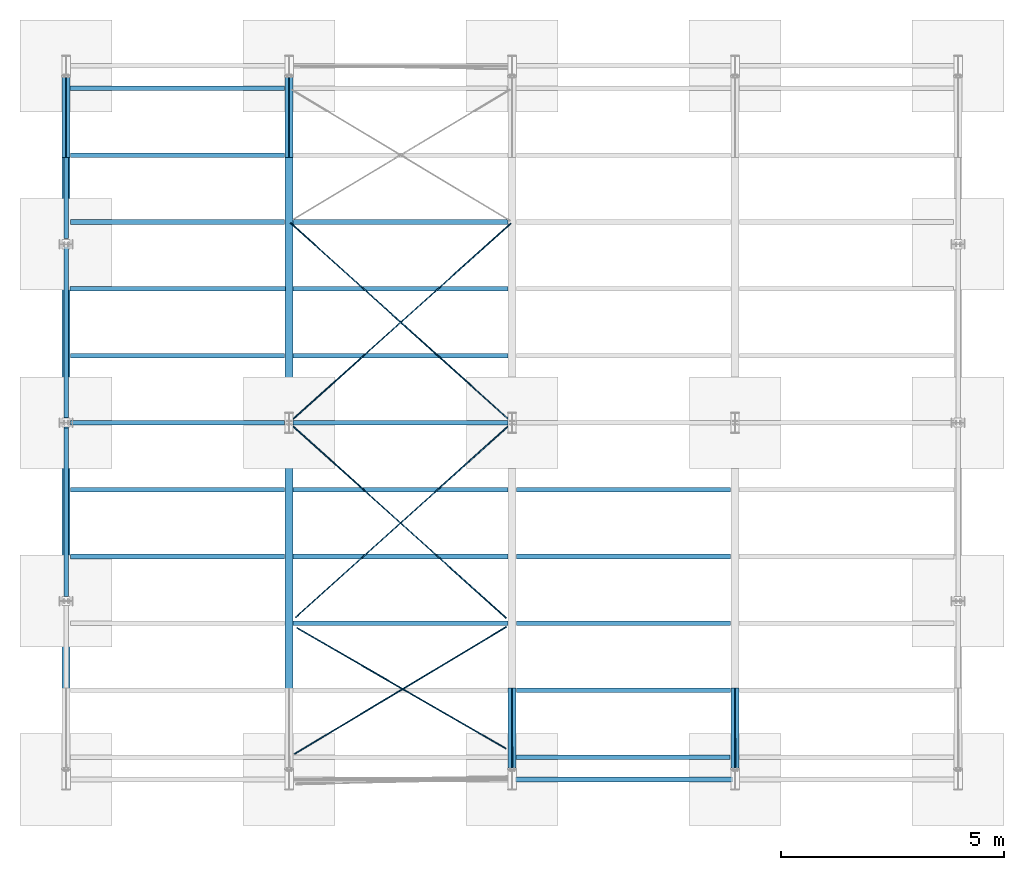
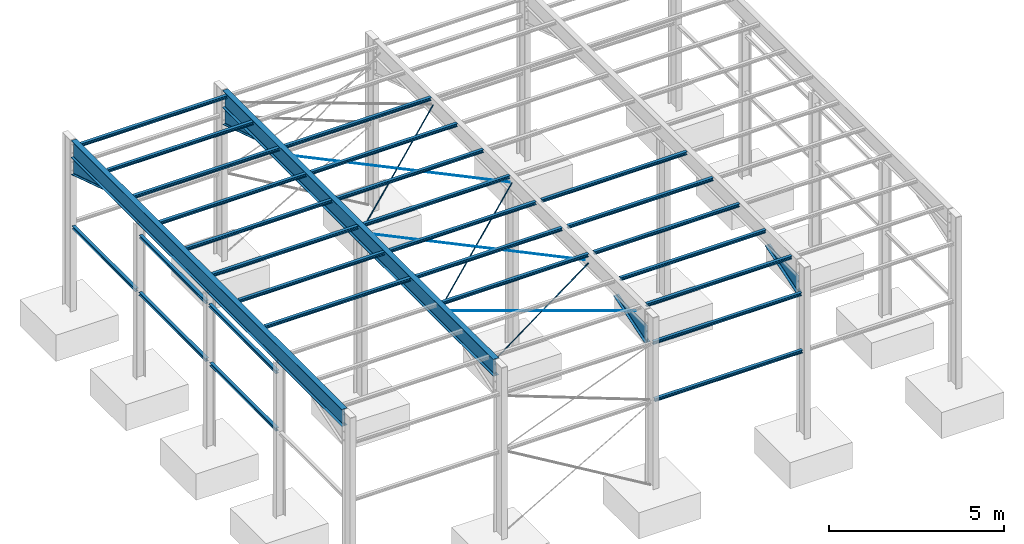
# Not in any storey, part 3 of 51: 35 beams, 4 members, 20 openings.
"""IFC4 model written with IfcOpenShell, lengths in feet."""

from ifc_helpers import new_model, entity, si_unit, converted_unit, direction, frame, frame_2d, origin, origin_2d, place, context, project, spatial, polyline, circle, i_section, outline, extrude, clip, halfspace, material, type_object, element, save


model = new_model("IFC4")

# Units and contexts
model_context = context("Model", 3, precision=0.0001, world=origin(), true_north=direction((6.123233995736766e-17, 1.0)))
ifc_project = project(units=[converted_unit("LENGTHUNIT", "FOOT", entity("IfcLengthMeasure", 0.3048), si_unit("LENGTHUNIT", "METRE"), dimensions=[1, 0, 0, 0, 0, 0, 0]), converted_unit("AREAUNIT", "SQUARE INCH", entity("IfcAreaMeasure", 0.0006451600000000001), si_unit("AREAUNIT", "SQUARE_METRE"), dimensions=[2, 0, 0, 0, 0, 0, 0]), converted_unit("PLANEANGLEUNIT", "DEGREE", entity("IfcPlaneAngleMeasure", 0.017453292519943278), si_unit("PLANEANGLEUNIT", "RADIAN"), dimensions=[0, 0, 0, 0, 0, 0, 0]), si_unit("VOLUMEUNIT", "CUBIC_METRE")], contexts=[model_context])

# Site
site_placement = place(None, origin())
site = spatial("IfcSite", under=ifc_project, at=site_placement, Name="Default", CompositionType="ELEMENT")

# Beam, openings
ifc_material_1 = material(Name="Steel ASTM A992", Category="Metal")
beam_type_1 = type_object("IfcBeamType", Name="W Shapes:W24X55", PredefinedType="BEAM")
beam_1_placement = place(site_placement, frame((27.657936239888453, 60.94091803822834, 18.701706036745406), z_axis=(0.0, 1.0, 0.0), x_axis=(-1.0, 0.0, 0.0)))
beam_1 = element("IfcBeam", 1, at=beam_1_placement, inside=site, type_object=beam_type_1, material=ifc_material_1, Name="W Shapes:W24X55", ObjectType="W24X55", context=model_context, shape_type="Clipping", body=[
    clip(clip(extrude(i_section(OverallWidth=0.5841666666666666, OverallDepth=1.9666666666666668, WebThickness=0.032916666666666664, FlangeThickness=0.042083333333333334, FilletRadius=0.042083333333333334, at=origin_2d()), origin(), (0.0, 0.0, -1.0), 57.81825835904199), halfspace(frame((27.657936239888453, -18.701706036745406, -3.824749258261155), z_axis=(0.0, 0.0, -1.0), x_axis=(-1.0, 0.0, 0.0)), True)), halfspace(frame((27.657936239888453, -18.701706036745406, -54.65361408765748), z_axis=(0.0, 0.0, 1.0), x_axis=(1.0, 0.0, 0.0)), True)),
])
opening_1_placement = place(beam_1_placement, frame((0.0, -0.9849737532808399, -29.23918167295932), z_axis=(0.0, 1.0, 0.0), x_axis=(0.0, 0.0, -1.0)))
element("IfcOpeningElement", 2, at=opening_1_placement, cuts=beam_1, ObjectType="Opening", context=model_context, shape_type="SweptSolid", body=[
    extrude(circle(Radius=0.03385744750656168, at=frame_2d((0.125, 0.14583333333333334), x_axis=(1.0, 0.0))), origin(), (0.0, 0.0, 1.0), 0.045364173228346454),
])
opening_2_placement = place(beam_1_placement, frame((0.0, -0.9849737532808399, -29.23918167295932), z_axis=(0.0, 1.0, 0.0), x_axis=(0.0, 0.0, -1.0)))
element("IfcOpeningElement", 3, at=opening_2_placement, cuts=beam_1, ObjectType="Opening", context=model_context, shape_type="SweptSolid", body=[
    extrude(circle(Radius=0.03385744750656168, at=frame_2d((-0.125, 0.14583333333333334), x_axis=(1.0, 0.0))), origin(), (0.0, 0.0, 1.0), 0.045364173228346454),
])
opening_3_placement = place(beam_1_placement, frame((0.0, -0.9849737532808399, -29.23918167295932), z_axis=(0.0, 1.0, 0.0), x_axis=(0.0, 0.0, -1.0)))
element("IfcOpeningElement", 4, at=opening_3_placement, cuts=beam_1, ObjectType="Opening", context=model_context, shape_type="SweptSolid", body=[
    extrude(circle(Radius=0.03385744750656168, at=frame_2d((0.125, -0.14583333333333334), x_axis=(1.0, 0.0))), origin(), (0.0, 0.0, 1.0), 0.045364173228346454),
])
opening_4_placement = place(beam_1_placement, frame((0.0, -0.9849737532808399, -29.23918167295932), z_axis=(0.0, 1.0, 0.0), x_axis=(0.0, 0.0, -1.0)))
element("IfcOpeningElement", 5, at=opening_4_placement, cuts=beam_1, ObjectType="Opening", context=model_context, shape_type="SweptSolid", body=[
    extrude(circle(Radius=0.03385744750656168, at=frame_2d((-0.125, -0.14583333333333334), x_axis=(1.0, 0.0))), origin(), (0.0, 0.0, 1.0), 0.045364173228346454),
])

beam_2_placement = place(site_placement, frame((11.253736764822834, 60.17664638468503, 18.701706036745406), z_axis=(0.0, 1.0, 0.0), x_axis=(-1.0, 0.0, 0.0)))
beam_2 = element("IfcBeam", 6, at=beam_2_placement, inside=site, type_object=beam_type_1, material=ifc_material_1, Name="W Shapes:W24X55", ObjectType="W24X55", context=model_context, shape_type="Clipping", body=[
    clip(clip(extrude(i_section(OverallWidth=0.5841666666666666, OverallDepth=1.9666666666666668, WebThickness=0.032916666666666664, FlangeThickness=0.042083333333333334, FilletRadius=0.042083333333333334, at=origin_2d()), origin(), (0.0, 0.0, -1.0), 57.71409169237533), halfspace(frame((11.253736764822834, -18.701706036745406, -53.88934243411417), z_axis=(0.0, 0.0, 1.0), x_axis=(1.0, 0.0, 0.0)), True)), halfspace(frame((11.253736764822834, -18.701706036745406, -3.0604776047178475), z_axis=(0.0, 0.0, -1.0), x_axis=(-1.0, 0.0, 0.0)), True)),
])
opening_5_placement = place(beam_2_placement, frame((0.0, -0.9849737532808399, -15.351550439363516), z_axis=(0.0, 1.0, 0.0), x_axis=(0.0, 0.0, 1.0)))
element("IfcOpeningElement", 7, at=opening_5_placement, cuts=beam_2, ObjectType="Opening", context=model_context, shape_type="SweptSolid", body=[
    extrude(circle(Radius=0.03385744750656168, at=frame_2d((0.125, 0.14583333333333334), x_axis=(1.0, 0.0))), origin(), (0.0, 0.0, 1.0), 0.045364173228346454),
])
opening_6_placement = place(beam_2_placement, frame((0.0, -0.9849737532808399, -15.351550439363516), z_axis=(0.0, 1.0, 0.0), x_axis=(0.0, 0.0, 1.0)))
element("IfcOpeningElement", 8, at=opening_6_placement, cuts=beam_2, ObjectType="Opening", context=model_context, shape_type="SweptSolid", body=[
    extrude(circle(Radius=0.03385744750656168, at=frame_2d((-0.125, 0.14583333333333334), x_axis=(1.0, 0.0))), origin(), (0.0, 0.0, 1.0), 0.045364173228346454),
])
opening_7_placement = place(beam_2_placement, frame((0.0, -0.9849737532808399, -15.351550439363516), z_axis=(0.0, 1.0, 0.0), x_axis=(0.0, 0.0, 1.0)))
element("IfcOpeningElement", 9, at=opening_7_placement, cuts=beam_2, ObjectType="Opening", context=model_context, shape_type="SweptSolid", body=[
    extrude(circle(Radius=0.03385744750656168, at=frame_2d((0.125, -0.14583333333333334), x_axis=(1.0, 0.0))), origin(), (0.0, 0.0, 1.0), 0.045364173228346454),
])
opening_8_placement = place(beam_2_placement, frame((0.0, -0.9849737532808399, -15.351550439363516), z_axis=(0.0, 1.0, 0.0), x_axis=(0.0, 0.0, 1.0)))
element("IfcOpeningElement", 10, at=opening_8_placement, cuts=beam_2, ObjectType="Opening", context=model_context, shape_type="SweptSolid", body=[
    extrude(circle(Radius=0.03385744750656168, at=frame_2d((-0.125, -0.14583333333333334), x_axis=(1.0, 0.0))), origin(), (0.0, 0.0, 1.0), 0.045364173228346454),
])
opening_9_placement = place(beam_2_placement, frame((0.0, -0.9849737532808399, -28.474910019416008), z_axis=(0.0, 1.0, 0.0), x_axis=(0.0, 0.0, 1.0)))
element("IfcOpeningElement", 11, at=opening_9_placement, cuts=beam_2, ObjectType="Opening", context=model_context, shape_type="SweptSolid", body=[
    extrude(circle(Radius=0.03385744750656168, at=frame_2d((0.125, 0.14583333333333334), x_axis=(1.0, 0.0))), origin(), (0.0, 0.0, 1.0), 0.045364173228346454),
])
opening_10_placement = place(beam_2_placement, frame((0.0, -0.9849737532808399, -28.474910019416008), z_axis=(0.0, 1.0, 0.0), x_axis=(0.0, 0.0, 1.0)))
element("IfcOpeningElement", 12, at=opening_10_placement, cuts=beam_2, ObjectType="Opening", context=model_context, shape_type="SweptSolid", body=[
    extrude(circle(Radius=0.03385744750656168, at=frame_2d((-0.125, 0.14583333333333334), x_axis=(1.0, 0.0))), origin(), (0.0, 0.0, 1.0), 0.045364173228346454),
])
opening_11_placement = place(beam_2_placement, frame((0.0, -0.9849737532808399, -28.474910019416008), z_axis=(0.0, 1.0, 0.0), x_axis=(0.0, 0.0, 1.0)))
element("IfcOpeningElement", 13, at=opening_11_placement, cuts=beam_2, ObjectType="Opening", context=model_context, shape_type="SweptSolid", body=[
    extrude(circle(Radius=0.03385744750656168, at=frame_2d((0.125, -0.14583333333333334), x_axis=(1.0, 0.0))), origin(), (0.0, 0.0, 1.0), 0.045364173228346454),
])
opening_12_placement = place(beam_2_placement, frame((0.0, -0.9849737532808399, -28.474910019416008), z_axis=(0.0, 1.0, 0.0), x_axis=(0.0, 0.0, 1.0)))
element("IfcOpeningElement", 14, at=opening_12_placement, cuts=beam_2, ObjectType="Opening", context=model_context, shape_type="SweptSolid", body=[
    extrude(circle(Radius=0.03385744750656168, at=frame_2d((-0.125, -0.14583333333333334), x_axis=(1.0, 0.0))), origin(), (0.0, 0.0, 1.0), 0.045364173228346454),
])
opening_13_placement = place(beam_2_placement, frame((0.0, -0.9849737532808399, -41.5982695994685), z_axis=(0.0, 1.0, 0.0), x_axis=(0.0, 0.0, -1.0)))
element("IfcOpeningElement", 15, at=opening_13_placement, cuts=beam_2, ObjectType="Opening", context=model_context, shape_type="SweptSolid", body=[
    extrude(circle(Radius=0.03385744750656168, at=frame_2d((0.125, 0.14583333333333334), x_axis=(1.0, 0.0))), origin(), (0.0, 0.0, 1.0), 0.045364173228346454),
])
opening_14_placement = place(beam_2_placement, frame((0.0, -0.9849737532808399, -41.5982695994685), z_axis=(0.0, 1.0, 0.0), x_axis=(0.0, 0.0, -1.0)))
element("IfcOpeningElement", 16, at=opening_14_placement, cuts=beam_2, ObjectType="Opening", context=model_context, shape_type="SweptSolid", body=[
    extrude(circle(Radius=0.03385744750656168, at=frame_2d((-0.125, 0.14583333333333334), x_axis=(1.0, 0.0))), origin(), (0.0, 0.0, 1.0), 0.045364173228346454),
])
opening_15_placement = place(beam_2_placement, frame((0.0, -0.9849737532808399, -41.5982695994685), z_axis=(0.0, 1.0, 0.0), x_axis=(0.0, 0.0, -1.0)))
element("IfcOpeningElement", 17, at=opening_15_placement, cuts=beam_2, ObjectType="Opening", context=model_context, shape_type="SweptSolid", body=[
    extrude(circle(Radius=0.03385744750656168, at=frame_2d((0.125, -0.14583333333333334), x_axis=(1.0, 0.0))), origin(), (0.0, 0.0, 1.0), 0.045364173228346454),
])
opening_16_placement = place(beam_2_placement, frame((0.0, -0.9849737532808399, -41.5982695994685), z_axis=(0.0, 1.0, 0.0), x_axis=(0.0, 0.0, -1.0)))
element("IfcOpeningElement", 18, at=opening_16_placement, cuts=beam_2, ObjectType="Opening", context=model_context, shape_type="SweptSolid", body=[
    extrude(circle(Radius=0.03385744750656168, at=frame_2d((-0.125, -0.14583333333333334), x_axis=(1.0, 0.0))), origin(), (0.0, 0.0, 1.0), 0.045364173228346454),
])

# Beams
beam_type_2 = type_object("IfcBeamType", Name="W Shapes:W4X13", PredefinedType="BEAM")
beam_3_placement = place(site_placement, frame((44.31213571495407, 5.455017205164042, 9.669186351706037), z_axis=(-1.0, 0.0, 0.0), x_axis=(0.0, -1.0, 0.0)))
element("IfcBeam", 19, at=beam_3_placement, inside=site, type_object=beam_type_2, material=ifc_material_1, Name="W Shapes:W4X13", ObjectType="W4X13", context=model_context, shape_type="SweptSolid", body=[
    extrude(i_section(OverallWidth=0.3383333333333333, OverallDepth=0.3466666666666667, WebThickness=0.023333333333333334, FlangeThickness=0.028749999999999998, FilletRadius=0.020833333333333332, at=origin_2d()), origin(), (0.0, 0.0, -1.0), 16.0),
])
beam_4_placement = place(site_placement, frame((11.253736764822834, 57.15842927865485, 9.669186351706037), z_axis=(0.0, 1.0, 0.0), x_axis=(-1.0, 0.0, 0.0)))
element("IfcBeam", 20, at=beam_4_placement, inside=site, type_object=beam_type_2, material=ifc_material_1, Name="W Shapes:W4X13", ObjectType="W4X13", context=model_context, shape_type="SweptSolid", body=[
    extrude(i_section(OverallWidth=0.3383333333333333, OverallDepth=0.3466666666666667, WebThickness=0.023333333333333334, FlangeThickness=0.028749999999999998, FilletRadius=0.020833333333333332, at=origin_2d()), origin(), (0.0, 0.0, -1.0), 11.916666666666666),
])
beam_5_placement = place(site_placement, frame((11.253736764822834, 44.64196295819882, 9.669186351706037), z_axis=(0.0, 1.0, 0.0), x_axis=(-1.0, 0.0, 0.0)))
element("IfcBeam", 21, at=beam_5_placement, inside=site, type_object=beam_type_2, material=ifc_material_1, Name="W Shapes:W4X13", ObjectType="W4X13", context=model_context, shape_type="SweptSolid", body=[
    extrude(i_section(OverallWidth=0.3383333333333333, OverallDepth=0.3466666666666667, WebThickness=0.023333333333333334, FlangeThickness=0.028749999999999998, FilletRadius=0.020833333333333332, at=origin_2d()), origin(), (0.0, 0.0, -1.0), 12.583333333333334),
])
beam_6_placement = place(site_placement, frame((11.253736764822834, 31.328376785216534, 9.669186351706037), z_axis=(0.0, 1.0, 0.0), x_axis=(-1.0, 0.0, 0.0)))
element("IfcBeam", 22, at=beam_6_placement, inside=site, type_object=beam_type_2, material=ifc_material_1, Name="W Shapes:W4X13", ObjectType="W4X13", context=model_context, shape_type="SweptSolid", body=[
    extrude(i_section(OverallWidth=0.3383333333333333, OverallDepth=0.3466666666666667, WebThickness=0.023333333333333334, FlangeThickness=0.028749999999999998, FilletRadius=0.020833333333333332, at=origin_2d()), origin(), (0.0, 0.0, -1.0), 12.416666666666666),
])
beam_7_placement = place(site_placement, frame((44.15685404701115, 5.455017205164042, 16.261706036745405), z_axis=(-1.0, 0.0, 0.0), x_axis=(0.0, -1.0, 0.0)))
element("IfcBeam", 23, at=beam_7_placement, inside=site, type_object=beam_type_2, material=ifc_material_1, Name="W Shapes:W4X13", ObjectType="W4X13", context=model_context, shape_type="SweptSolid", body=[
    extrude(i_section(OverallWidth=0.3383333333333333, OverallDepth=0.3466666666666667, WebThickness=0.023333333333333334, FlangeThickness=0.028749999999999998, FilletRadius=0.020833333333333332, at=origin_2d()), origin(), (0.0, 0.0, -1.0), 16.061483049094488),
])
beam_8_placement = place(site_placement, frame((11.253736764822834, 44.553931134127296, 16.261706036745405), z_axis=(0.0, 1.0, 0.0), x_axis=(-1.0, 0.0, 0.0)))
element("IfcBeam", 24, at=beam_8_placement, inside=site, type_object=beam_type_2, material=ifc_material_1, Name="W Shapes:W4X13", ObjectType="W4X13", context=model_context, shape_type="SweptSolid", body=[
    extrude(i_section(OverallWidth=0.3383333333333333, OverallDepth=0.3466666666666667, WebThickness=0.023333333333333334, FlangeThickness=0.028749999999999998, FilletRadius=0.020833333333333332, at=origin_2d()), origin(), (0.0, 0.0, -1.0), 12.47101197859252),
])
beam_9_placement = place(site_placement, frame((11.253736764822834, 31.550653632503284, 16.261706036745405), z_axis=(0.0, 1.0, 0.0), x_axis=(-1.0, 0.0, 0.0)))
element("IfcBeam", 25, at=beam_9_placement, inside=site, type_object=beam_type_2, material=ifc_material_1, Name="W Shapes:W4X13", ObjectType="W4X13", context=model_context, shape_type="SweptSolid", body=[
    extrude(i_section(OverallWidth=0.3383333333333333, OverallDepth=0.3466666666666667, WebThickness=0.023333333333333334, FlangeThickness=0.028749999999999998, FilletRadius=0.020833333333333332, at=origin_2d()), origin(), (0.0, 0.0, -1.0), 12.668878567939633),
])
beam_10_placement = place(site_placement, frame((44.35380238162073, 7.095437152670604, 19.511706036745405), z_axis=(-1.0, 0.0, 0.0), x_axis=(0.0, -1.0, 0.0)))
element("IfcBeam", 26, at=beam_10_placement, inside=site, type_object=beam_type_2, material=ifc_material_1, Name="W Shapes:W4X13", ObjectType="W4X13", context=model_context, shape_type="SweptSolid", body=[
    extrude(i_section(OverallWidth=0.3383333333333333, OverallDepth=0.3466666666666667, WebThickness=0.023333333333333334, FlangeThickness=0.028749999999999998, FilletRadius=0.020833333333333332, at=origin_2d()), origin(), (0.0, 0.0, -1.0), 15.75),
])
beam_11_placement = place(site_placement, frame((11.5454034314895, 56.30803557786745, 19.511706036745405), z_axis=(1.0, 0.0, 0.0), x_axis=(0.0, 1.0, 0.0)))
element("IfcBeam", 27, at=beam_11_placement, inside=site, type_object=beam_type_2, material=ifc_material_1, Name="W Shapes:W4X13", ObjectType="W4X13", context=model_context, shape_type="SweptSolid", body=[
    extrude(i_section(OverallWidth=0.3383333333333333, OverallDepth=0.3466666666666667, WebThickness=0.023333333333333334, FlangeThickness=0.028749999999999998, FilletRadius=0.020833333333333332, at=origin_2d()), origin(), (0.0, 0.0, 1.0), 15.791666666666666),
])
beam_12_placement = place(site_placement, frame((44.37463571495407, 12.016696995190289, 19.511706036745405), z_axis=(-1.0, 0.0, 0.0), x_axis=(0.0, -1.0, 0.0)))
element("IfcBeam", 28, at=beam_12_placement, inside=site, type_object=beam_type_2, material=ifc_material_1, Name="W Shapes:W4X13", ObjectType="W4X13", context=model_context, shape_type="SweptSolid", body=[
    extrude(i_section(OverallWidth=0.3383333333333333, OverallDepth=0.3466666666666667, WebThickness=0.023333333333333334, FlangeThickness=0.028749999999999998, FilletRadius=0.020833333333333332, at=origin_2d()), origin(), (0.0, 0.0, -1.0), 15.75),
])
beam_13_placement = place(site_placement, frame((27.93713571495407, 16.937956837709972, 19.511706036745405), z_axis=(-1.0, 0.0, 0.0), x_axis=(0.0, -1.0, 0.0)))
element("IfcBeam", 29, at=beam_13_placement, inside=site, type_object=beam_type_2, material=ifc_material_1, Name="W Shapes:W4X13", ObjectType="W4X13", context=model_context, shape_type="SweptSolid", body=[
    extrude(i_section(OverallWidth=0.3383333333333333, OverallDepth=0.3466666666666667, WebThickness=0.023333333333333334, FlangeThickness=0.028749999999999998, FilletRadius=0.020833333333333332, at=origin_2d()), origin(), (0.0, 0.0, -1.0), 15.833333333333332),
])
for number, where, z_axis, x_axis, name in (
    (30, (44.37463571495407, 16.937956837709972, 19.511706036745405), (-1.0, 0.0, 0.0), (0.0, -1.0, 0.0), "W Shapes:W4X13"),
    (31, (11.587070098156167, 21.859216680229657, 19.511706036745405), (-1.0, 0.0, 0.0), (0.0, -1.0, 0.0), "W Shapes:W4X13"),
):
    element("IfcBeam", number, at=place(site_placement, frame(where, z_axis=z_axis, x_axis=x_axis)), inside=site, type_object=beam_type_2, material=ifc_material_1, Name=name, ObjectType="W4X13", context=model_context, shape_type="SweptSolid", body=[
        extrude(i_section(OverallWidth=0.3383333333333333, OverallDepth=0.3466666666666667, WebThickness=0.023333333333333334, FlangeThickness=0.028749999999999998, FilletRadius=0.020833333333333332, at=origin_2d()), origin(), (0.0, 0.0, -1.0), 15.75),
    ])
beam_14_placement = place(site_placement, frame((27.93713571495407, 21.859216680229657, 19.511706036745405), z_axis=(-1.0, 0.0, 0.0), x_axis=(0.0, -1.0, 0.0)))
element("IfcBeam", 32, at=beam_14_placement, inside=site, type_object=beam_type_2, material=ifc_material_1, Name="W Shapes:W4X13", ObjectType="W4X13", context=model_context, shape_type="SweptSolid", body=[
    extrude(i_section(OverallWidth=0.3383333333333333, OverallDepth=0.3466666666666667, WebThickness=0.023333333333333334, FlangeThickness=0.028749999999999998, FilletRadius=0.020833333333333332, at=origin_2d()), origin(), (0.0, 0.0, -1.0), 15.833333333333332),
])
for number, where, z_axis, x_axis, name in (
    (33, (44.37463571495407, 21.859216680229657, 19.511706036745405), (-1.0, 0.0, 0.0), (0.0, -1.0, 0.0), "W Shapes:W4X13"),
    (34, (11.587070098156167, 26.780476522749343, 19.511706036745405), (-1.0, 0.0, 0.0), (0.0, -1.0, 0.0), "W Shapes:W4X13"),
):
    element("IfcBeam", number, at=place(site_placement, frame(where, z_axis=z_axis, x_axis=x_axis)), inside=site, type_object=beam_type_2, material=ifc_material_1, Name=name, ObjectType="W4X13", context=model_context, shape_type="SweptSolid", body=[
        extrude(i_section(OverallWidth=0.3383333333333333, OverallDepth=0.3466666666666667, WebThickness=0.023333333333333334, FlangeThickness=0.028749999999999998, FilletRadius=0.020833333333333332, at=origin_2d()), origin(), (0.0, 0.0, -1.0), 15.75),
    ])
beam_15_placement = place(site_placement, frame((27.93713571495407, 26.780476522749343, 19.511706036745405), z_axis=(-1.0, 0.0, 0.0), x_axis=(0.0, -1.0, 0.0)))
element("IfcBeam", 35, at=beam_15_placement, inside=site, type_object=beam_type_2, material=ifc_material_1, Name="W Shapes:W4X13", ObjectType="W4X13", context=model_context, shape_type="SweptSolid", body=[
    extrude(i_section(OverallWidth=0.3383333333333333, OverallDepth=0.3466666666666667, WebThickness=0.023333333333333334, FlangeThickness=0.028749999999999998, FilletRadius=0.020833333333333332, at=origin_2d()), origin(), (0.0, 0.0, -1.0), 15.833333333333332),
])
for number, where, z_axis, x_axis, name in (
    (36, (44.37463571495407, 26.780476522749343, 19.511706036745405), (-1.0, 0.0, 0.0), (0.0, -1.0, 0.0), "W Shapes:W4X13"),
    (37, (11.574602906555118, 31.701736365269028, 19.511706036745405), (-1.0, 0.0, 0.0), (0.0, -1.0, 0.0), "W Shapes:W4X13"),
):
    element("IfcBeam", number, at=place(site_placement, frame(where, z_axis=z_axis, x_axis=x_axis)), inside=site, type_object=beam_type_2, material=ifc_material_1, Name=name, ObjectType="W4X13", context=model_context, shape_type="SweptSolid", body=[
        extrude(i_section(OverallWidth=0.3383333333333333, OverallDepth=0.3466666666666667, WebThickness=0.023333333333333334, FlangeThickness=0.028749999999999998, FilletRadius=0.020833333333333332, at=origin_2d()), origin(), (0.0, 0.0, -1.0), 15.75),
    ])
beam_16_placement = place(site_placement, frame((27.93713571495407, 31.701736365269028, 19.511706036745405), z_axis=(-1.0, 0.0, 0.0), x_axis=(0.0, -1.0, 0.0)))
element("IfcBeam", 38, at=beam_16_placement, inside=site, type_object=beam_type_2, material=ifc_material_1, Name="W Shapes:W4X13", ObjectType="W4X13", context=model_context, shape_type="SweptSolid", body=[
    extrude(i_section(OverallWidth=0.3383333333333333, OverallDepth=0.3466666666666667, WebThickness=0.023333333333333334, FlangeThickness=0.028749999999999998, FilletRadius=0.020833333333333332, at=origin_2d()), origin(), (0.0, 0.0, -1.0), 15.833333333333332),
])
for number, where, z_axis, x_axis, name in (
    (39, (11.587070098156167, 51.38677573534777, 19.511706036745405), (1.0, 0.0, 0.0), (0.0, 1.0, 0.0), "W Shapes:W4X13"),
    (40, (11.574602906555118, 46.46551589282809, 19.511706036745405), (1.0, 0.0, 0.0), (0.0, 1.0, 0.0), "W Shapes:W4X13"),
):
    element("IfcBeam", number, at=place(site_placement, frame(where, z_axis=z_axis, x_axis=x_axis)), inside=site, type_object=beam_type_2, material=ifc_material_1, Name=name, ObjectType="W4X13", context=model_context, shape_type="SweptSolid", body=[
        extrude(i_section(OverallWidth=0.3383333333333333, OverallDepth=0.3466666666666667, WebThickness=0.023333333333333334, FlangeThickness=0.028749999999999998, FilletRadius=0.020833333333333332, at=origin_2d()), origin(), (0.0, 0.0, 1.0), 15.75),
    ])
for number, where, z_axis, x_axis, name in (
    (41, (27.93713571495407, 46.46551589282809, 19.511706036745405), (1.0, 0.0, 0.0), (0.0, 1.0, 0.0), "W Shapes:W4X13"),
    (42, (11.5454034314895, 41.5442560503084, 19.511706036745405), (1.0, 0.0, 0.0), (0.0, 1.0, 0.0), "W Shapes:W4X13"),
    (43, (27.93713571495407, 41.5442560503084, 19.511706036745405), (1.0, 0.0, 0.0), (0.0, 1.0, 0.0), "W Shapes:W4X13"),
):
    element("IfcBeam", number, at=place(site_placement, frame(where, z_axis=z_axis, x_axis=x_axis)), inside=site, type_object=beam_type_2, material=ifc_material_1, Name=name, ObjectType="W4X13", context=model_context, shape_type="SweptSolid", body=[
        extrude(i_section(OverallWidth=0.3383333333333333, OverallDepth=0.3466666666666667, WebThickness=0.023333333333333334, FlangeThickness=0.028749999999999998, FilletRadius=0.020833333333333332, at=origin_2d()), origin(), (0.0, 0.0, 1.0), 15.833333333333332),
    ])
beam_17_placement = place(site_placement, frame((11.587070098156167, 36.62299620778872, 19.511706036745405), z_axis=(1.0, 0.0, 0.0), x_axis=(0.0, 1.0, 0.0)))
element("IfcBeam", 44, at=beam_17_placement, inside=site, type_object=beam_type_2, material=ifc_material_1, Name="W Shapes:W4X13", ObjectType="W4X13", context=model_context, shape_type="SweptSolid", body=[
    extrude(i_section(OverallWidth=0.3383333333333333, OverallDepth=0.3466666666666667, WebThickness=0.023333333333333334, FlangeThickness=0.028749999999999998, FilletRadius=0.020833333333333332, at=origin_2d()), origin(), (0.0, 0.0, 1.0), 15.75),
])
beam_18_placement = place(site_placement, frame((27.93713571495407, 36.62299620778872, 19.511706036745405), z_axis=(1.0, 0.0, 0.0), x_axis=(0.0, 1.0, 0.0)))
element("IfcBeam", 45, at=beam_18_placement, inside=site, type_object=beam_type_2, material=ifc_material_1, Name="W Shapes:W4X13", ObjectType="W4X13", context=model_context, shape_type="SweptSolid", body=[
    extrude(i_section(OverallWidth=0.3383333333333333, OverallDepth=0.3466666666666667, WebThickness=0.023333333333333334, FlangeThickness=0.028749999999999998, FilletRadius=0.020833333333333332, at=origin_2d()), origin(), (0.0, 0.0, 1.0), 15.833333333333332),
])
ifc_material_2 = material(Name="Steel ASTM A36", Category="Metal")
beam_type_3 = type_object("IfcBeamType", Name="Round Bars:RB 1", PredefinedType="BEAM")
beam_19_placement = place(site_placement, frame((28.055601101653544, 7.3340360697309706, 18.700787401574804), z_axis=(-0.857492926, -0.514495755, 0.0), x_axis=(0.514495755, -0.857492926, 0.0)))
element("IfcBeam", 46, at=beam_19_placement, inside=site, type_object=beam_type_3, material=ifc_material_2, Name="Round Bars:RB 1", ObjectType="RB 1", context=model_context, shape_type="SweptSolid", body=[
    extrude(circle(Radius=0.041666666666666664, at=origin_2d()), origin(), (0.0, 0.0, -1.0), 18.166666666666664),
])
beam_20_placement = place(site_placement, frame((43.62854746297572, 17.32818626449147, 18.700787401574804), z_axis=(0.743294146, -0.668964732, 0.0), x_axis=(0.668964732, 0.743294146, 0.0)))
element("IfcBeam", 47, at=beam_20_placement, inside=site, type_object=beam_type_3, material=ifc_material_2, Name="Round Bars:RB 1", ObjectType="RB 1", context=model_context, shape_type="SweptSolid", body=[
    extrude(circle(Radius=0.041666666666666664, at=origin_2d()), origin(), (0.0, 0.0, -1.0), 21.166666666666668),
])
beam_21_placement = place(site_placement, frame((43.60723742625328, 7.729623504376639, 18.700787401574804), z_axis=(0.866025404, -0.5, 0.0), x_axis=(0.5, 0.866025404, 0.0)))
element("IfcBeam", 48, at=beam_21_placement, inside=site, type_object=beam_type_3, material=ifc_material_2, Name="Round Bars:RB 1", ObjectType="RB 1", context=model_context, shape_type="SweptSolid", body=[
    extrude(circle(Radius=0.041666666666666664, at=origin_2d()), origin(), (0.0, 0.0, -1.0), 17.75),
])
beam_22_placement = place(site_placement, frame((28.138115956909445, 17.379162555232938, 18.700787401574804), z_axis=(-0.743504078, -0.668731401, 0.0), x_axis=(0.668731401, -0.743504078, 0.0)))
element("IfcBeam", 49, at=beam_22_placement, inside=site, type_object=beam_type_3, material=ifc_material_2, Name="Round Bars:RB 1", ObjectType="RB 1", context=model_context, shape_type="SweptSolid", body=[
    extrude(circle(Radius=0.041666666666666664, at=origin_2d()), origin(), (0.0, 0.0, -1.0), 21.333333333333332),
])
beam_23_placement = place(site_placement, frame((43.95988427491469, 46.35051679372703, 18.700787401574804), z_axis=(-0.743815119, -0.668385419, 0.0), x_axis=(0.668385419, -0.743815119, 0.0)))
element("IfcBeam", 50, at=beam_23_placement, inside=site, type_object=beam_type_3, material=ifc_material_2, Name="Round Bars:RB 1", ObjectType="RB 1", context=model_context, shape_type="SweptSolid", body=[
    extrude(circle(Radius=0.041666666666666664, at=origin_2d()), origin(), (0.0, 0.0, 1.0), 21.5),
])
beam_24_placement = place(site_placement, frame((27.776173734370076, 46.38217407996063, 18.700787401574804), z_axis=(0.743085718, -0.669196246, 0.0), x_axis=(0.669196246, 0.743085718, 0.0)))
element("IfcBeam", 51, at=beam_24_placement, inside=site, type_object=beam_type_3, material=ifc_material_2, Name="Round Bars:RB 1", ObjectType="RB 1", context=model_context, shape_type="SweptSolid", body=[
    extrude(circle(Radius=0.041666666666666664, at=origin_2d()), origin(), (0.0, 0.0, 1.0), 21.708333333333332),
])

# Member, opening
member_1_placement = place(site_placement, frame((27.657936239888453, 60.40785938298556, 15.74704584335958), z_axis=(0.0, 0.952577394, -0.304296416), x_axis=(-1.0, 0.0, 0.0)))
member_1 = element("IfcMember", 52, at=member_1_placement, inside=site, Name="Haunch", ObjectType="Haunch", context=model_context, shape_type="Clipping", body=[
    clip(clip(clip(extrude(i_section(OverallWidth=0.5841666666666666, OverallDepth=1.9666666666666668, WebThickness=0.032916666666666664, FlangeThickness=0.042083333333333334, FilletRadius=0.042083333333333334, at=origin_2d()), origin(), (0.0, 0.0, -1.0), 19.390601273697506), halfspace(frame((27.657936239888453, -16.00192954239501, 1.6561795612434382), z_axis=(0.0, -0.304296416, -0.952577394), x_axis=(-1.0, 0.0, 0.0)), True)), halfspace(frame((27.657936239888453, -16.50405684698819, -58.14302795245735), z_axis=(0.0, -0.952577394, 0.304296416), x_axis=(1.0, 0.0, 0.0)), True)), halfspace(frame((27.657936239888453, -17.79895362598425, -3.96927123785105), z_axis=(0.0, 0.304296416, 0.952577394), x_axis=(1.0, 0.0, 0.0)), True)),
])
opening_17_placement = place(member_1_placement, frame((0.6204954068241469, -0.9833333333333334, -3.141437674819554), z_axis=(-1.0, 0.0, 0.0), x_axis=(0.0, 0.304296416, 0.952577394)))
element("IfcOpeningElement", 53, at=opening_17_placement, cuts=member_1, ObjectType="Opening", context=model_context, shape_type="SweptSolid", body=[
    extrude(outline(polyline([(3.2808398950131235e-06, 1.9521030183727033), (-0.0625079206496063, 1.9521030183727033), (3.2808398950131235e-06, 1.889591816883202), (3.2808398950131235e-06, 1.9521030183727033)])), origin(), (0.0, 0.0, 1.0), 1.2409908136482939),
])

member_2_placement = place(site_placement, frame((11.253736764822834, 60.40785938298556, 15.74704584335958), z_axis=(0.0, 0.952577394, -0.304296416), x_axis=(-1.0, 0.0, 0.0)))
member_2 = element("IfcMember", 54, at=member_2_placement, inside=site, Name="Haunch", ObjectType="Haunch", context=model_context, shape_type="Clipping", body=[
    clip(clip(clip(extrude(i_section(OverallWidth=0.5841666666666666, OverallDepth=1.9666666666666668, WebThickness=0.032916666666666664, FlangeThickness=0.042083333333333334, FilletRadius=0.042083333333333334, at=origin_2d()), origin(), (0.0, 0.0, -1.0), 19.390601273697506), halfspace(frame((11.253736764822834, -16.00192954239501, 1.6561795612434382), z_axis=(0.0, -0.304296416, -0.952577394), x_axis=(-1.0, 0.0, 0.0)), True)), halfspace(frame((11.253736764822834, -16.50405684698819, -58.14302795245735), z_axis=(0.0, -0.952577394, 0.304296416), x_axis=(1.0, 0.0, 0.0)), True)), halfspace(frame((11.253736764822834, -17.79895362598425, -3.96927123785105), z_axis=(0.0, 0.304296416, 0.952577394), x_axis=(1.0, 0.0, 0.0)), True)),
])
opening_18_placement = place(member_2_placement, frame((0.6204954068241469, -0.9833333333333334, -3.141437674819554), z_axis=(-1.0, 0.0, 0.0), x_axis=(0.0, 0.304296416, 0.952577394)))
element("IfcOpeningElement", 55, at=opening_18_placement, cuts=member_2, ObjectType="Opening", context=model_context, shape_type="SweptSolid", body=[
    extrude(outline(polyline([(3.2808398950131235e-06, 1.9521030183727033), (-0.0625079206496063, 1.9521030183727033), (3.2808398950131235e-06, 1.889591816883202), (3.2808398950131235e-06, 1.9521030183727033)])), origin(), (0.0, 0.0, 1.0), 1.2409908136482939),
])

member_3_placement = place(site_placement, frame((44.06213571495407, 2.995613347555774, 15.74704584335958), z_axis=(0.0, -0.952577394, -0.304296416), x_axis=(1.0, 0.0, 0.0)))
member_3 = element("IfcMember", 56, at=member_3_placement, inside=site, Name="Haunch", ObjectType="Haunch", context=model_context, shape_type="Clipping", body=[
    clip(clip(clip(extrude(i_section(OverallWidth=0.5841666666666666, OverallDepth=1.9666666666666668, WebThickness=0.032916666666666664, FlangeThickness=0.042083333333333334, FilletRadius=0.042083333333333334, at=origin_2d()), origin(), (0.0, 0.0, -1.0), 19.390601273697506), halfspace(frame((-44.06213571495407, -16.00192954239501, 1.6561795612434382), z_axis=(0.0, -0.304296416, -0.952577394), x_axis=(-1.0, 0.0, 0.0)), True)), halfspace(frame((-44.06213571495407, 2.789392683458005, 2.253686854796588), z_axis=(0.0, -0.952577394, 0.304296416), x_axis=(-1.0, 0.0, 0.0)), True)), halfspace(frame((-44.06213571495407, -17.79895362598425, -3.96927123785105), z_axis=(0.0, 0.304296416, 0.952577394), x_axis=(1.0, 0.0, 0.0)), True)),
])
opening_19_placement = place(member_3_placement, frame((0.6204954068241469, -0.9833333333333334, -3.141437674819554), z_axis=(-1.0, 0.0, 0.0), x_axis=(0.0, 0.304296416, 0.952577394)))
element("IfcOpeningElement", 57, at=opening_19_placement, cuts=member_3, ObjectType="Opening", context=model_context, shape_type="SweptSolid", body=[
    extrude(outline(polyline([(3.2808398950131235e-06, 1.9521030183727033), (-0.0625079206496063, 1.9521030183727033), (3.2808398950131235e-06, 1.889591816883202), (3.2808398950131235e-06, 1.9521030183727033)])), origin(), (0.0, 0.0, 1.0), 1.2409908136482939),
])

member_4_placement = place(site_placement, frame((60.46633519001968, 2.9956133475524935, 15.74704584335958), z_axis=(0.0, -0.952577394, -0.304296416), x_axis=(1.0, 0.0, 0.0)))
member_4 = element("IfcMember", 58, at=member_4_placement, inside=site, Name="Haunch", ObjectType="Haunch", context=model_context, shape_type="Clipping", body=[
    clip(clip(clip(extrude(i_section(OverallWidth=0.5841666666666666, OverallDepth=1.9666666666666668, WebThickness=0.032916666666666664, FlangeThickness=0.042083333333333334, FilletRadius=0.042083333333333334, at=origin_2d()), origin(), (0.0, 0.0, -1.0), 19.390601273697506), halfspace(frame((-60.46633519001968, -16.00192954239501, 1.6561795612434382), z_axis=(0.0, -0.304296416, -0.952577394), x_axis=(-1.0, 0.0, 0.0)), True)), halfspace(frame((-60.46633519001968, 2.789392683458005, 2.253686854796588), z_axis=(0.0, -0.952577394, 0.304296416), x_axis=(-1.0, 0.0, 0.0)), True)), halfspace(frame((-60.46633519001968, -17.79895362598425, -3.96927123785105), z_axis=(0.0, 0.304296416, 0.952577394), x_axis=(1.0, 0.0, 0.0)), True)),
])
opening_20_placement = place(member_4_placement, frame((0.6204954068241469, -0.9833333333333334, -3.141437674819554), z_axis=(-1.0, 0.0, 0.0), x_axis=(0.0, 0.304296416, 0.952577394)))
element("IfcOpeningElement", 59, at=opening_20_placement, cuts=member_4, ObjectType="Opening", context=model_context, shape_type="SweptSolid", body=[
    extrude(outline(polyline([(3.2808398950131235e-06, 1.9521030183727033), (-0.0625079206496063, 1.9521030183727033), (3.2808398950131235e-06, 1.889591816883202), (3.2808398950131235e-06, 1.9521030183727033)])), origin(), (0.0, 0.0, 1.0), 1.2409908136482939),
])

save(model, "model.ifc")
